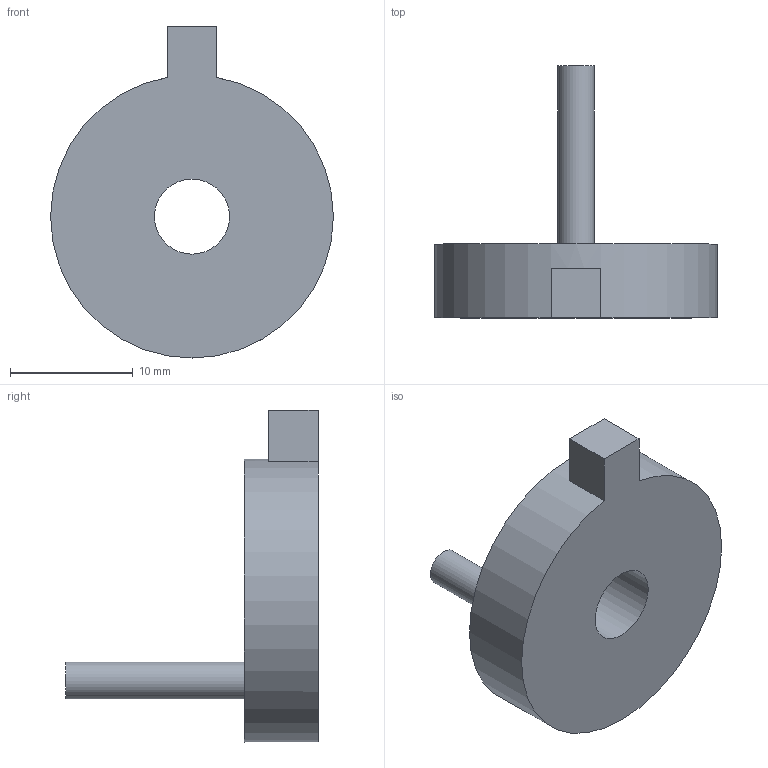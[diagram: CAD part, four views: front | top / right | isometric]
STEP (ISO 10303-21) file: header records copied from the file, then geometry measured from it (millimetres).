
FILE_DESCRIPTION(('Open CASCADE Model'),'2;1');
FILE_NAME('Open CASCADE Shape Model','2026-10-15T18:27:22',('Author'),( 'Open CASCADE'),'Open CASCADE STEP processor 7.9','Open CASCADE 7.9' ,'Unknown');
FILE_SCHEMA(('AUTOMOTIVE_DESIGN { 1 0 10303 214 1 1 1 1 }'));
Length unit declared in the file: millimetre
Products named in the file (1): Open CASCADE STEP translator 7.9 7
Bounding box: 23 x 20.5 x 27 mm (x, y, z)
Volume: 2484.9 mm3; surface area: 1523.5 mm2
Topology: 1 solids, 1 shells, 10 faces, 21 edges, 14 vertices
Faces by surface type: plane 7, cylinder 3
Full cylindrical faces by diameter (mm): 3 x1, 6.1 x1, 23 x1
Entity records: 565 total; most frequent: CARTESIAN_POINT 110, DIRECTION 86, LINE 43, VECTOR 43, ORIENTED_EDGE 42, PCURVE 42, DEFINITIONAL_REPRESENTATION 42, EDGE_CURVE 21
